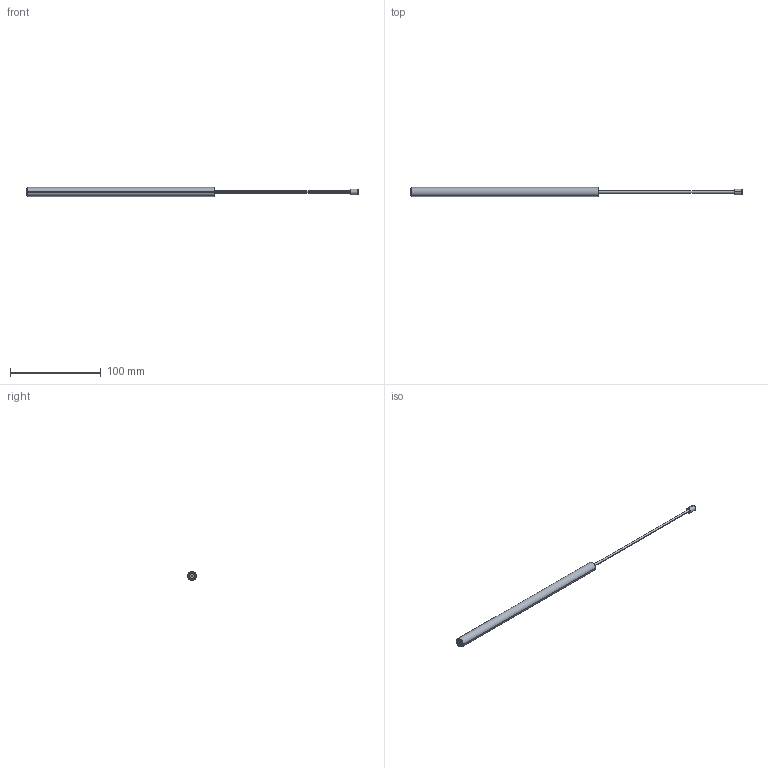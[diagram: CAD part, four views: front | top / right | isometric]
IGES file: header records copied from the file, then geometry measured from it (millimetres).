
Start section: SolidWorks IGES file using analytic representation for surfaces
Global section: file name: Z:\4-個保管\神長\FPD-10150B-CW.IGS; native system: SolidWorks 2018; preprocessor: SolidWorks 2018; author: flgijutsu02; date: 190313.112718; units: millimetre
Bounding box: 366.3 x 10 x 10 mm (x, y, z)
Surface area: 8245 mm2 (no closed solid volume)
Topology: 0 solids, 0 shells, 68 faces, 816 edges, 810 vertices
Faces by surface type: revolution 44, bspline 24
